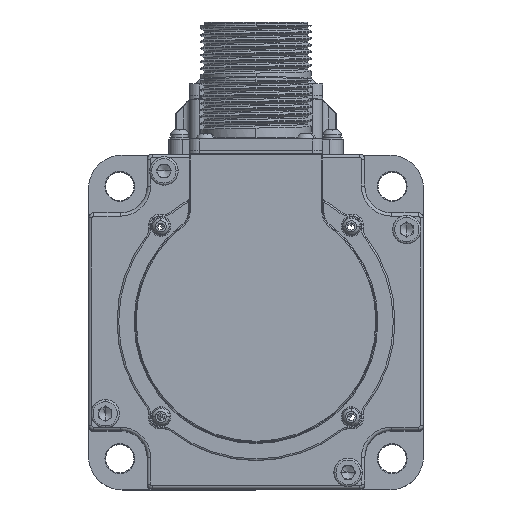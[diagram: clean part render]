
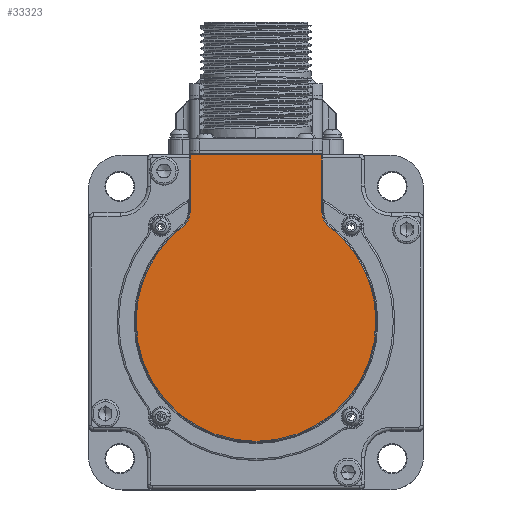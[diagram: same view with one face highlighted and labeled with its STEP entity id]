
A CAD part, top view. The second image highlights one B-rep face of the part: STEP entity #33323.
In plain terms, the highlighted planar face has unit normal (0, 0, 1).
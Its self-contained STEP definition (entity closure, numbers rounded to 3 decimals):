
#351 = DIRECTION ( 'NONE',  ( 1., 0., 0. ) ) ;
#2911 = ORIENTED_EDGE ( 'NONE', *, *, #28229, .T. ) ;
#2959 = DIRECTION ( 'NONE',  ( 0., 0., 1. ) ) ;
#3126 = CIRCLE ( 'NONE', #48195, 5.3 ) ;
#3706 = DIRECTION ( 'NONE',  ( 0., 0., 1. ) ) ;
#3793 = ORIENTED_EDGE ( 'NONE', *, *, #77350, .T. ) ;
#4465 = EDGE_CURVE ( 'NONE', #30335, #12223, #7042, .T. ) ;
#4614 = DIRECTION ( 'NONE',  ( 0., 0., -1. ) ) ;
#5540 = AXIS2_PLACEMENT_3D ( 'NONE', #74223, #3706, #57350 ) ;
#5783 = AXIS2_PLACEMENT_3D ( 'NONE', #69940, #2959, #10374 ) ;
#7042 = LINE ( 'NONE', #71688, #15456 ) ;
#9341 = ORIENTED_EDGE ( 'NONE', *, *, #22664, .T. ) ;
#9848 = VERTEX_POINT ( 'NONE', #51368 ) ;
#10374 = DIRECTION ( 'NONE',  ( 1., 0., 0. ) ) ;
#11057 = ORIENTED_EDGE ( 'NONE', *, *, #16626, .T. ) ;
#12223 = VERTEX_POINT ( 'NONE', #59267 ) ;
#13467 = VECTOR ( 'NONE', #27117, 1000. ) ;
#13730 = ORIENTED_EDGE ( 'NONE', *, *, #4465, .T. ) ;
#14728 = EDGE_CURVE ( 'NONE', #12223, #74699, #77043, .T. ) ;
#15456 = VECTOR ( 'NONE', #60745, 1000. ) ;
#16626 = EDGE_CURVE ( 'NONE', #21421, #30335, #38854, .T. ) ;
#17231 = DIRECTION ( 'NONE',  ( 0., 0., 1. ) ) ;
#19361 = CARTESIAN_POINT ( 'NONE',  ( -32.072, 22.881, 316.1 ) ) ;
#20265 = DIRECTION ( 'NONE',  ( 0., 0., 1. ) ) ;
#20787 = VERTEX_POINT ( 'NONE', #41897 ) ;
#21421 = VERTEX_POINT ( 'NONE', #19361 ) ;
#22664 = EDGE_CURVE ( 'NONE', #65912, #59886, #60581, .T. ) ;
#25747 = CARTESIAN_POINT ( 'NONE',  ( -51.772, -9.741, 316.1 ) ) ;
#27117 = DIRECTION ( 'NONE',  ( 0., 1., 0. ) ) ;
#28229 = EDGE_CURVE ( 'NONE', #9848, #20787, #30380, .T. ) ;
#28526 = DIRECTION ( 'NONE',  ( 0., -1., 0. ) ) ;
#29676 = CARTESIAN_POINT ( 'NONE',  ( -71.472, 22.881, 316.1 ) ) ;
#30335 = VERTEX_POINT ( 'NONE', #42012 ) ;
#30380 = CIRCLE ( 'NONE', #45440, 35.8 ) ;
#33323 = ADVANCED_FACE ( 'NONE', ( #53684 ), #53285, .T. ) ;
#33635 = CIRCLE ( 'NONE', #47597, 5.3 ) ;
#33966 = CARTESIAN_POINT ( 'NONE',  ( -76.772, 22.881, 316.1 ) ) ;
#35127 = CARTESIAN_POINT ( 'NONE',  ( -15.972, -9.741, 316.1 ) ) ;
#38018 = VECTOR ( 'NONE', #28526, 1000. ) ;
#38267 = DIRECTION ( 'NONE',  ( 1., 0., 0. ) ) ;
#38854 = LINE ( 'NONE', #62776, #13467 ) ;
#39542 = CIRCLE ( 'NONE', #5783, 35.8 ) ;
#40155 = AXIS2_PLACEMENT_3D ( 'NONE', #47814, #17231, #351 ) ;
#40649 = EDGE_LOOP ( 'NONE', ( #13730, #52660, #65140, #2911, #3793, #9341, #67893, #11057 ) ) ;
#41897 = CARTESIAN_POINT ( 'NONE',  ( -87.572, -9.741, 316.1 ) ) ;
#42012 = CARTESIAN_POINT ( 'NONE',  ( -32.072, 39.959, 316.1 ) ) ;
#42296 = EDGE_CURVE ( 'NONE', #74699, #9848, #3126, .T. ) ;
#43831 = CARTESIAN_POINT ( 'NONE',  ( -26.772, 22.881, 316.1 ) ) ;
#44206 = DIRECTION ( 'NONE',  ( 0., 0., -1. ) ) ;
#45440 = AXIS2_PLACEMENT_3D ( 'NONE', #25747, #20265, #49631 ) ;
#47597 = AXIS2_PLACEMENT_3D ( 'NONE', #43831, #44206, #38267 ) ;
#47814 = CARTESIAN_POINT ( 'NONE',  ( -51.772, -9.741, 316.1 ) ) ;
#48195 = AXIS2_PLACEMENT_3D ( 'NONE', #33966, #4614, #52018 ) ;
#49631 = DIRECTION ( 'NONE',  ( 1., 0., 0. ) ) ;
#51368 = CARTESIAN_POINT ( 'NONE',  ( -73.549, 18.674, 316.1 ) ) ;
#52018 = DIRECTION ( 'NONE',  ( 1., 0., 0. ) ) ;
#52660 = ORIENTED_EDGE ( 'NONE', *, *, #14728, .T. ) ;
#53285 = PLANE ( 'NONE',  #40155 ) ;
#53684 = FACE_OUTER_BOUND ( 'NONE', #40649, .T. ) ;
#57350 = DIRECTION ( 'NONE',  ( 1., 0., 0. ) ) ;
#57690 = CARTESIAN_POINT ( 'NONE',  ( -29.996, 18.674, 316.1 ) ) ;
#59267 = CARTESIAN_POINT ( 'NONE',  ( -71.472, 39.959, 316.1 ) ) ;
#59886 = VERTEX_POINT ( 'NONE', #57690 ) ;
#60581 = CIRCLE ( 'NONE', #5540, 35.8 ) ;
#60745 = DIRECTION ( 'NONE',  ( -1., 0., 0. ) ) ;
#62776 = CARTESIAN_POINT ( 'NONE',  ( -32.072, 40.259, 316.1 ) ) ;
#65140 = ORIENTED_EDGE ( 'NONE', *, *, #42296, .T. ) ;
#65912 = VERTEX_POINT ( 'NONE', #35127 ) ;
#67893 = ORIENTED_EDGE ( 'NONE', *, *, #72383, .T. ) ;
#69940 = CARTESIAN_POINT ( 'NONE',  ( -51.772, -9.741, 316.1 ) ) ;
#71688 = CARTESIAN_POINT ( 'NONE',  ( -71.772, 39.959, 316.1 ) ) ;
#72383 = EDGE_CURVE ( 'NONE', #59886, #21421, #33635, .T. ) ;
#72980 = CARTESIAN_POINT ( 'NONE',  ( -71.472, 22.881, 316.1 ) ) ;
#74223 = CARTESIAN_POINT ( 'NONE',  ( -51.772, -9.741, 316.1 ) ) ;
#74699 = VERTEX_POINT ( 'NONE', #72980 ) ;
#77043 = LINE ( 'NONE', #29676, #38018 ) ;
#77350 = EDGE_CURVE ( 'NONE', #20787, #65912, #39542, .T. ) ;
